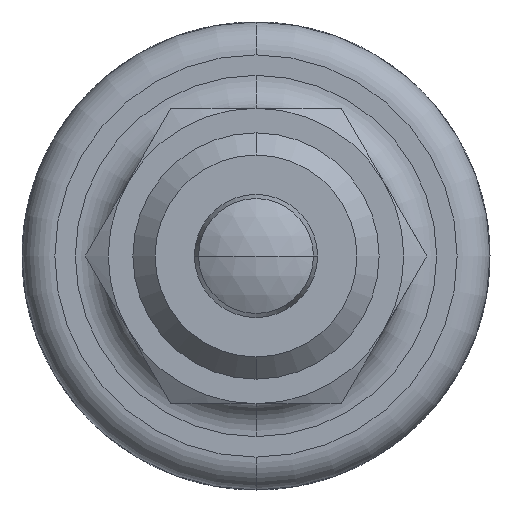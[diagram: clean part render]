
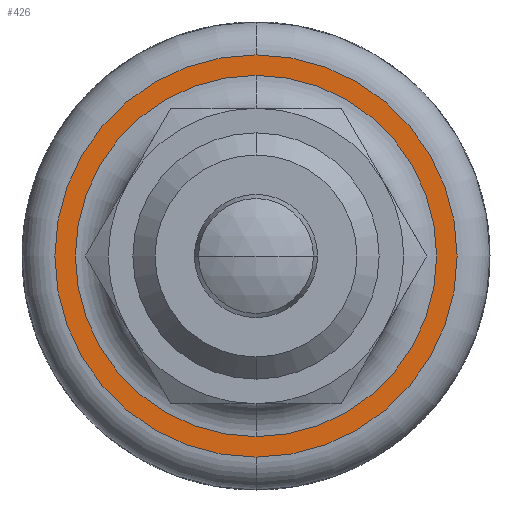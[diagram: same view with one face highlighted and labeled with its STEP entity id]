
A CAD part, front view. The second image highlights one B-rep face of the part: STEP entity #426.
In plain terms, the highlighted planar face has unit normal (0, -1, 0).
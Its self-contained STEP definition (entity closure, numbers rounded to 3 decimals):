
#416 = ORIENTED_EDGE ( 'NONE', *, *, #779, .T. ) ;
#417 = EDGE_LOOP ( 'NONE', ( #416, #782 ) ) ;
#426 = ADVANCED_FACE ( 'NONE', ( #3845, #3844 ), #3843, .F. ) ;
#766 = EDGE_CURVE ( 'NONE', #1177, #1176, #4516, .T. ) ;
#767 = ORIENTED_EDGE ( 'NONE', *, *, #1174, .T. ) ;
#779 = EDGE_CURVE ( 'NONE', #6715, #6812, #4562, .T. ) ;
#782 = ORIENTED_EDGE ( 'NONE', *, *, #6658, .T. ) ;
#783 = ORIENTED_EDGE ( 'NONE', *, *, #766, .T. ) ;
#784 = EDGE_LOOP ( 'NONE', ( #783, #767 ) ) ;
#1174 = EDGE_CURVE ( 'NONE', #1176, #1177, #5326, .T. ) ;
#1176 = VERTEX_POINT ( 'NONE', #5320 ) ;
#1177 = VERTEX_POINT ( 'NONE', #5319 ) ;
#3839 = DIRECTION ( 'NONE',  ( 0., 0., 1. ) ) ;
#3840 = DIRECTION ( 'NONE',  ( 0., 1., 0. ) ) ;
#3841 = CARTESIAN_POINT ( 'NONE',  ( 0., 10.667, 0. ) ) ;
#3842 = AXIS2_PLACEMENT_3D ( 'NONE', #3841, #3840, #3839 ) ;
#3843 = PLANE ( 'NONE',  #3842 ) ;
#3844 = FACE_OUTER_BOUND ( 'NONE', #784, .T. ) ;
#3845 = FACE_BOUND ( 'NONE', #417, .T. ) ;
#4514 = CARTESIAN_POINT ( 'NONE',  ( 0., 10.667, 0. ) ) ;
#4515 = AXIS2_PLACEMENT_3D ( 'NONE', #4514, #4585, #4584 ) ;
#4516 = CIRCLE ( 'NONE', #4515, 8.167 ) ;
#4558 = DIRECTION ( 'NONE',  ( 0., 0., 1. ) ) ;
#4559 = DIRECTION ( 'NONE',  ( 0., 1., 0. ) ) ;
#4561 = AXIS2_PLACEMENT_3D ( 'NONE', #4569, #4559, #4558 ) ;
#4562 = CIRCLE ( 'NONE', #4561, 7.333 ) ;
#4569 = CARTESIAN_POINT ( 'NONE',  ( 0., 10.667, 0. ) ) ;
#4584 = DIRECTION ( 'NONE',  ( 0., 0., 1. ) ) ;
#4585 = DIRECTION ( 'NONE',  ( 0., -1., 0. ) ) ;
#5319 = CARTESIAN_POINT ( 'NONE',  ( 0., 10.667, 8.167 ) ) ;
#5320 = CARTESIAN_POINT ( 'NONE',  ( 0., 10.667, -8.167 ) ) ;
#5322 = DIRECTION ( 'NONE',  ( 0., 0., 1. ) ) ;
#5323 = DIRECTION ( 'NONE',  ( 0., -1., 0. ) ) ;
#5324 = CARTESIAN_POINT ( 'NONE',  ( 0., 10.667, 0. ) ) ;
#5325 = AXIS2_PLACEMENT_3D ( 'NONE', #5324, #5323, #5322 ) ;
#5326 = CIRCLE ( 'NONE', #5325, 8.167 ) ;
#6658 = EDGE_CURVE ( 'NONE', #6812, #6715, #8700, .T. ) ;
#6715 = VERTEX_POINT ( 'NONE', #8690 ) ;
#6812 = VERTEX_POINT ( 'NONE', #8689 ) ;
#8689 = CARTESIAN_POINT ( 'NONE',  ( 0., 10.667, -7.333 ) ) ;
#8690 = CARTESIAN_POINT ( 'NONE',  ( 0., 10.667, 7.333 ) ) ;
#8696 = DIRECTION ( 'NONE',  ( 0., 0., 1. ) ) ;
#8697 = DIRECTION ( 'NONE',  ( 0., 1., 0. ) ) ;
#8698 = CARTESIAN_POINT ( 'NONE',  ( 0., 10.667, 0. ) ) ;
#8699 = AXIS2_PLACEMENT_3D ( 'NONE', #8698, #8697, #8696 ) ;
#8700 = CIRCLE ( 'NONE', #8699, 7.333 ) ;
